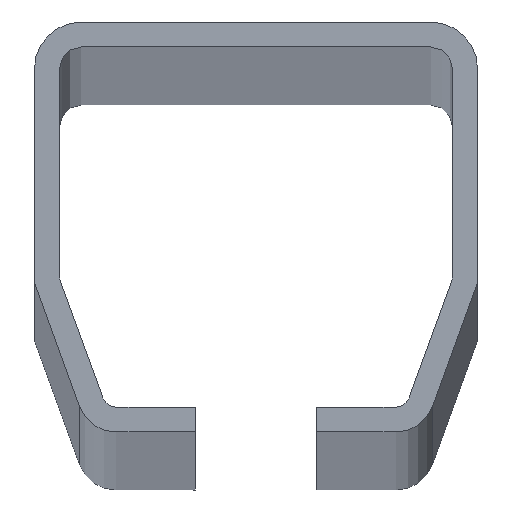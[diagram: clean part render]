
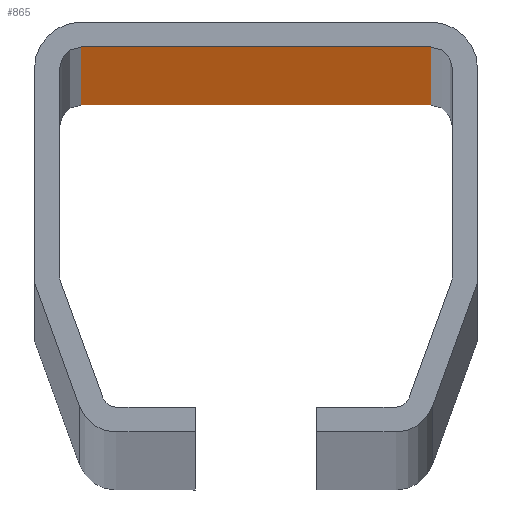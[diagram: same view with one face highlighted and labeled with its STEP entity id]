
A CAD part, top view. The second image highlights one B-rep face of the part: STEP entity #865.
In plain terms, the highlighted planar face has unit normal (0, -1, 0).
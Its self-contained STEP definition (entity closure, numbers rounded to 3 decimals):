
#62 = DIRECTION ( 'NONE',  ( 1., 0., 0. ) ) ;
#68 = VERTEX_POINT ( 'NONE', #623 ) ;
#89 = CARTESIAN_POINT ( 'NONE',  ( -35.5, -4.5, -6000. ) ) ;
#140 = CARTESIAN_POINT ( 'NONE',  ( -35.5, -4.5, 0. ) ) ;
#175 = ORIENTED_EDGE ( 'NONE', *, *, #639, .T. ) ;
#233 = VECTOR ( 'NONE', #383, 1000. ) ;
#261 = LINE ( 'NONE', #89, #961 ) ;
#273 = FACE_OUTER_BOUND ( 'NONE', #676, .T. ) ;
#331 = ORIENTED_EDGE ( 'NONE', *, *, #779, .T. ) ;
#383 = DIRECTION ( 'NONE',  ( 0., 0., 1. ) ) ;
#393 = CARTESIAN_POINT ( 'NONE',  ( -31.5, -4.5, 0. ) ) ;
#416 = ORIENTED_EDGE ( 'NONE', *, *, #1060, .T. ) ;
#439 = DIRECTION ( 'NONE',  ( 0., -1., 0. ) ) ;
#518 = DIRECTION ( 'NONE',  ( 1., 0., 0. ) ) ;
#557 = EDGE_CURVE ( 'NONE', #1090, #68, #631, .T. ) ;
#599 = ORIENTED_EDGE ( 'NONE', *, *, #557, .F. ) ;
#623 = CARTESIAN_POINT ( 'NONE',  ( 31.5, -4.5, 0. ) ) ;
#625 = PLANE ( 'NONE',  #900 ) ;
#631 = LINE ( 'NONE', #140, #735 ) ;
#632 = CARTESIAN_POINT ( 'NONE',  ( -31.5, -4.5, -6000. ) ) ;
#634 = CARTESIAN_POINT ( 'NONE',  ( 31.5, -4.5, -6000. ) ) ;
#639 = EDGE_CURVE ( 'NONE', #1090, #933, #926, .T. ) ;
#644 = LINE ( 'NONE', #987, #233 ) ;
#676 = EDGE_LOOP ( 'NONE', ( #331, #416, #599, #175 ) ) ;
#735 = VECTOR ( 'NONE', #837, 1000. ) ;
#779 = EDGE_CURVE ( 'NONE', #933, #1041, #261, .T. ) ;
#831 = VECTOR ( 'NONE', #857, 1000. ) ;
#837 = DIRECTION ( 'NONE',  ( 1., 0., 0. ) ) ;
#857 = DIRECTION ( 'NONE',  ( 0., 0., -1. ) ) ;
#863 = CARTESIAN_POINT ( 'NONE',  ( -35.5, -4.5, -6000. ) ) ;
#865 = ADVANCED_FACE ( 'NONE', ( #273 ), #625, .T. ) ;
#900 = AXIS2_PLACEMENT_3D ( 'NONE', #863, #439, #62 ) ;
#926 = LINE ( 'NONE', #1026, #831 ) ;
#933 = VERTEX_POINT ( 'NONE', #632 ) ;
#961 = VECTOR ( 'NONE', #518, 1000. ) ;
#987 = CARTESIAN_POINT ( 'NONE',  ( 31.5, -4.5, 0. ) ) ;
#1026 = CARTESIAN_POINT ( 'NONE',  ( -31.5, -4.5, -6000. ) ) ;
#1041 = VERTEX_POINT ( 'NONE', #634 ) ;
#1060 = EDGE_CURVE ( 'NONE', #1041, #68, #644, .T. ) ;
#1090 = VERTEX_POINT ( 'NONE', #393 ) ;
